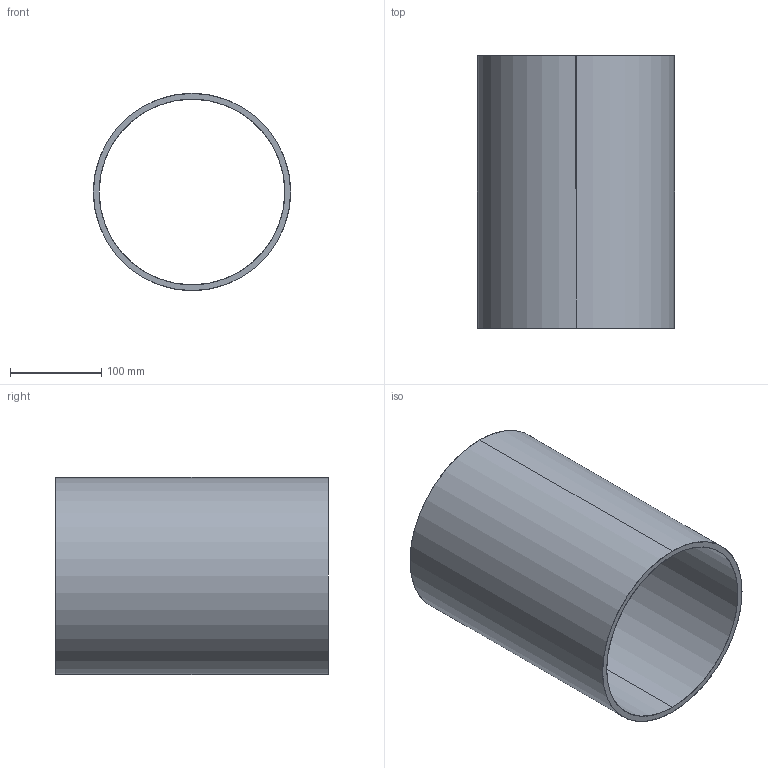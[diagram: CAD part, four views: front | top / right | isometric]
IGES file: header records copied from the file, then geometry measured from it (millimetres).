
Start section: SolidWorks IGES file using analytic representation for surfaces
Global section: file name: C:\Users\Jonathan\Dropbox\BR-Engineering\Models\WTE8-X1A-PUBLIC\WTE8-P-TUBE-R1.IGS; native system: SolidWorks 2014; preprocessor: SolidWorks 2014; author: Jonathan; date: 170112.112446; units: inch
Bounding box: 215.9 x 298.45 x 215.9 mm (x, y, z)
Surface area: 401312.3 mm2 (no closed solid volume)
Topology: 0 solids, 0 shells, 6 faces, 272 edges, 272 vertices
Faces by surface type: revolution 4, bspline 2
